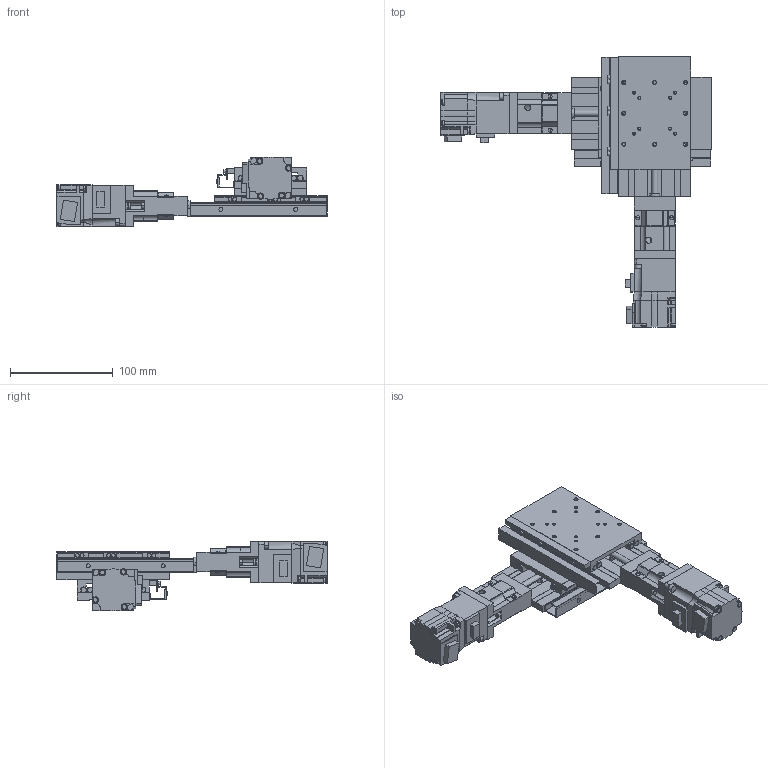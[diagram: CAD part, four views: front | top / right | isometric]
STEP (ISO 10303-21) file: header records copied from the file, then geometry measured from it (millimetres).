
FILE_DESCRIPTION(('STEP AP203'),'1');
FILE_NAME('C:/3D-Trans/3D_PMG750T-L□-UA+240122.step','2024-02-27T01:28:32',(' '),(' '),'Spatial InterOp 3D',' ',' ');
FILE_SCHEMA(('CONFIG_CONTROL_DESIGN'));
Length unit declared in the file: millimetre
Products named in the file (13): 1; 2; 3; 4; 5; 6; 7; 8; 9; 10; 11; 12; 13
Bounding box: 263.4 x 263.4 x 67.99 mm (x, y, z)
Volume: 592958.4 mm3; surface area: 213927.4 mm2
Topology: 13 solids, 13 shells, 1434 faces, 3652 edges, 2296 vertices
Faces by surface type: plane 736, cylinder 504, cone 160, bspline 18, torus 16
Entity records: 44034 total; most frequent: CARTESIAN_POINT 8015, DIRECTION 7638, ORIENTED_EDGE 7192, EDGE_CURVE 3596, AXIS2_PLACEMENT_3D 2665, LINE 2308, VECTOR 2308, VERTEX_POINT 2296
